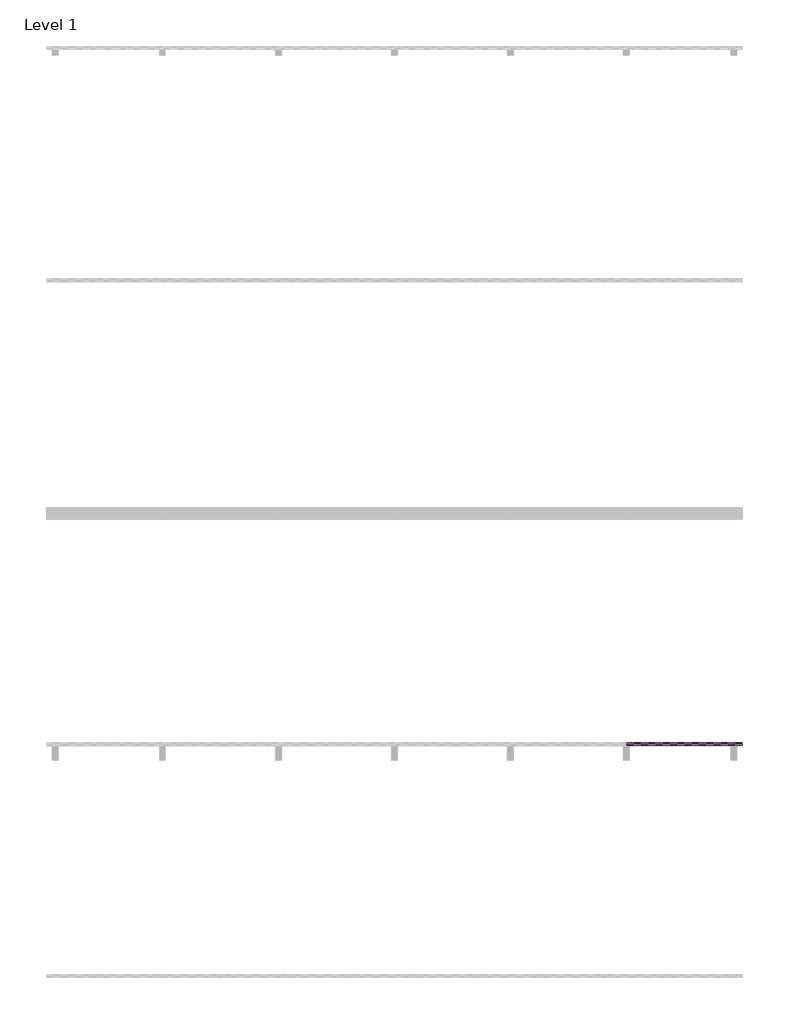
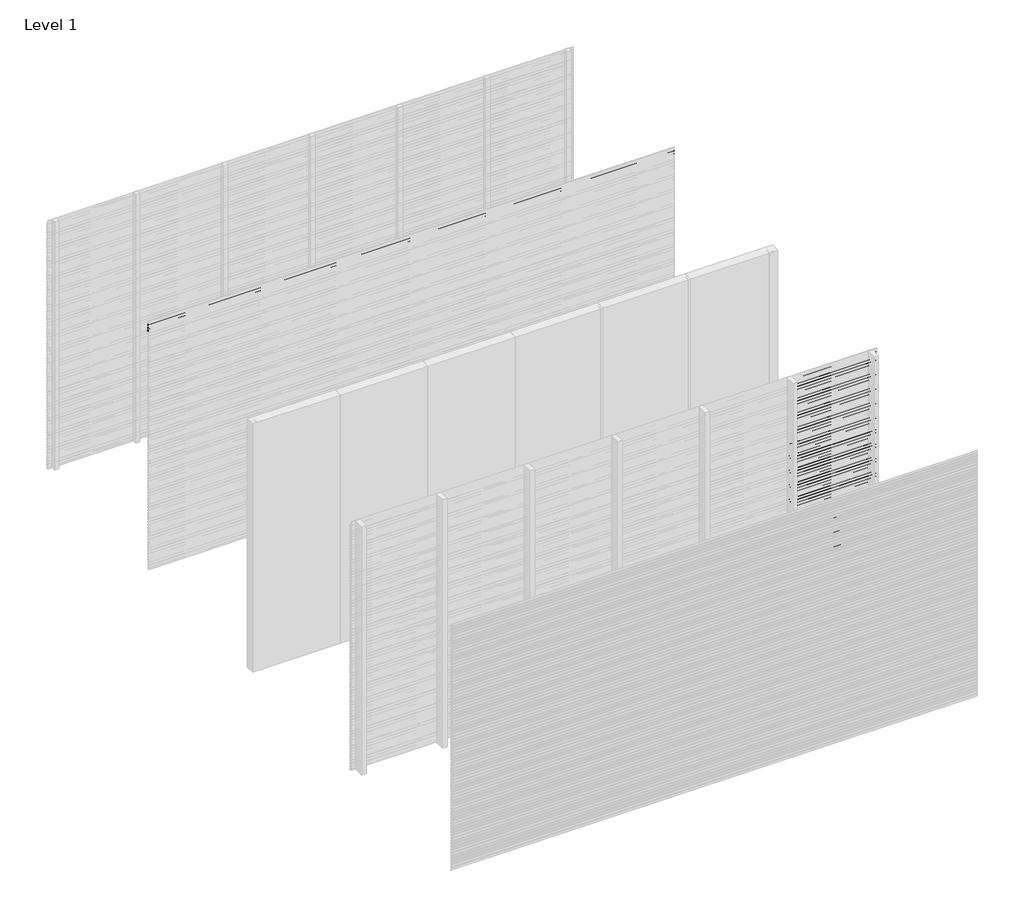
# One storey, part 7 of 25: 96 proxies.
"""IFC4 building model written with IfcOpenShell, lengths in millimetres."""

from ifc_helpers import new_model, si_unit, frame, origin, place, context, project, spatial, polyline, outline, extrude, element, save

model = new_model("IFC4")

# Units and contexts
model_context = context("Model", 3, world=origin())
ifc_project = project(units=[si_unit("LENGTHUNIT", "METRE", prefix="MILLI")], contexts=[model_context])

# Site, building, storey
site = spatial("IfcSite", under=ifc_project)
building = spatial("IfcBuilding", under=site)
storey = spatial("IfcBuildingStorey", under=building, Name="Level 1", Elevation=0.0)

# Proxies
placement = place(None, origin())
element("IfcBuildingElementProxy", 1, Name="Wall Sweeps", at=placement, inside=storey, context=model_context, shape_type="SweptSolid", body=[
    extrude(outline(polyline([(-13995.0, 2975.0), (-13995.0, 2963.942893), (-13976.0, 2948.0), (-13976.0, 2935.0), (-13997.0, 2952.6210923), (-13997.0, 2975.0), (-13995.0, 2975.0)])), frame((0.0, 0.0, 0.0), z_axis=(1.0, 0.0, 0.0), x_axis=(0.0, 1.0, 0.0)), (0.0, 0.0, 1.0), 6000.0),
])
element("IfcBuildingElementProxy", 2, Name="Wall Sweeps", at=placement, inside=storey, context=model_context, shape_type="SweptSolid", body=[
    extrude(outline(polyline([(-13995.0, 2940.0), (-13995.0, 2928.942893), (-13976.0, 2913.0), (-13976.0, 2900.0), (-13997.0, 2917.6210923), (-13997.0, 2940.0), (-13995.0, 2940.0)])), frame((0.0, 0.0, 0.0), z_axis=(1.0, 0.0, 0.0), x_axis=(0.0, 1.0, 0.0)), (0.0, 0.0, 1.0), 6000.0),
])
element("IfcBuildingElementProxy", 3, Name="Wall Sweeps", at=placement, inside=storey, context=model_context, shape_type="SweptSolid", body=[
    extrude(outline(polyline([(-13995.0, 2905.0), (-13995.0, 2893.942893), (-13976.0, 2878.0), (-13976.0, 2865.0), (-13997.0, 2882.6210923), (-13997.0, 2905.0), (-13995.0, 2905.0)])), frame((0.0, 0.0, 0.0), z_axis=(1.0, 0.0, 0.0), x_axis=(0.0, 1.0, 0.0)), (0.0, 0.0, 1.0), 6000.0),
])
element("IfcBuildingElementProxy", 4, Name="Wall Sweeps", at=placement, inside=storey, context=model_context, shape_type="SweptSolid", body=[
    extrude(outline(polyline([(-17995.0, 2975.0), (-17995.0, 2963.942893), (-17976.0, 2948.0), (-17976.0, 2935.0), (-17997.0, 2952.6210923), (-17997.0, 2975.0), (-17995.0, 2975.0)])), frame((4999.9999998, 0.0, 0.0), z_axis=(1.0, 0.0, 0.0), x_axis=(0.0, 1.0, 0.0)), (0.0, 0.0, 1.0), 1000.0000002),
])
element("IfcBuildingElementProxy", 5, Name="Wall Sweeps", at=placement, inside=storey, context=model_context, shape_type="SweptSolid", body=[
    extrude(outline(polyline([(-17995.0, 2940.0), (-17995.0, 2928.942893), (-17976.0, 2913.0), (-17976.0, 2900.0), (-17997.0, 2917.6210923), (-17997.0, 2940.0), (-17995.0, 2940.0)])), frame((4999.9999998, 0.0, 0.0), z_axis=(1.0, 0.0, 0.0), x_axis=(0.0, 1.0, 0.0)), (0.0, 0.0, 1.0), 1000.0000002),
])
element("IfcBuildingElementProxy", 6, Name="Wall Sweeps", at=placement, inside=storey, context=model_context, shape_type="SweptSolid", body=[
    extrude(outline(polyline([(-17995.0, 2905.0), (-17995.0, 2893.942893), (-17976.0, 2878.0), (-17976.0, 2865.0), (-17997.0, 2882.6210923), (-17997.0, 2905.0), (-17995.0, 2905.0)])), frame((4999.9999998, 0.0, 0.0), z_axis=(1.0, 0.0, 0.0), x_axis=(0.0, 1.0, 0.0)), (0.0, 0.0, 1.0), 1000.0000002),
])
element("IfcBuildingElementProxy", 7, Name="Wall Sweeps", at=placement, inside=storey, context=model_context, shape_type="SweptSolid", body=[
    extrude(outline(polyline([(-17995.0, 2870.0), (-17995.0, 2858.942893), (-17976.0, 2843.0), (-17976.0, 2830.0), (-17997.0, 2847.6210923), (-17997.0, 2870.0), (-17995.0, 2870.0)])), frame((4999.9999998, 0.0, 0.0), z_axis=(1.0, 0.0, 0.0), x_axis=(0.0, 1.0, 0.0)), (0.0, 0.0, 1.0), 1000.0000002),
])
element("IfcBuildingElementProxy", 8, Name="Wall Sweeps", at=placement, inside=storey, context=model_context, shape_type="SweptSolid", body=[
    extrude(outline(polyline([(-17995.0, 2835.0), (-17995.0, 2823.942893), (-17976.0, 2808.0), (-17976.0, 2795.0), (-17997.0, 2812.6210923), (-17997.0, 2835.0), (-17995.0, 2835.0)])), frame((4999.9999998, 0.0, 0.0), z_axis=(1.0, 0.0, 0.0), x_axis=(0.0, 1.0, 0.0)), (0.0, 0.0, 1.0), 1000.0000002),
])
element("IfcBuildingElementProxy", 9, Name="Wall Sweeps", at=placement, inside=storey, context=model_context, shape_type="SweptSolid", body=[
    extrude(outline(polyline([(-17995.0, 2800.0), (-17995.0, 2788.942893), (-17976.0, 2773.0), (-17976.0, 2760.0), (-17997.0, 2777.6210923), (-17997.0, 2800.0), (-17995.0, 2800.0)])), frame((4999.9999998, 0.0, 0.0), z_axis=(1.0, 0.0, 0.0), x_axis=(0.0, 1.0, 0.0)), (0.0, 0.0, 1.0), 1000.0000002),
])
element("IfcBuildingElementProxy", 10, Name="Wall Sweeps", at=placement, inside=storey, context=model_context, shape_type="SweptSolid", body=[
    extrude(outline(polyline([(-17995.0, 2765.0), (-17995.0, 2753.942893), (-17976.0, 2738.0), (-17976.0, 2725.0), (-17997.0, 2742.6210923), (-17997.0, 2765.0), (-17995.0, 2765.0)])), frame((4999.9999998, 0.0, 0.0), z_axis=(1.0, 0.0, 0.0), x_axis=(0.0, 1.0, 0.0)), (0.0, 0.0, 1.0), 1000.0000002),
])
element("IfcBuildingElementProxy", 11, Name="Wall Sweeps", at=placement, inside=storey, context=model_context, shape_type="SweptSolid", body=[
    extrude(outline(polyline([(-17995.0, 2730.0), (-17995.0, 2718.942893), (-17976.0, 2703.0), (-17976.0, 2690.0), (-17997.0, 2707.6210923), (-17997.0, 2730.0), (-17995.0, 2730.0)])), frame((4999.9999998, 0.0, 0.0), z_axis=(1.0, 0.0, 0.0), x_axis=(0.0, 1.0, 0.0)), (0.0, 0.0, 1.0), 1000.0000002),
])
element("IfcBuildingElementProxy", 12, Name="Wall Sweeps", at=placement, inside=storey, context=model_context, shape_type="SweptSolid", body=[
    extrude(outline(polyline([(-17995.0, 2695.0), (-17995.0, 2683.942893), (-17976.0, 2668.0), (-17976.0, 2655.0), (-17997.0, 2672.6210923), (-17997.0, 2695.0), (-17995.0, 2695.0)])), frame((4999.9999998, 0.0, 0.0), z_axis=(1.0, 0.0, 0.0), x_axis=(0.0, 1.0, 0.0)), (0.0, 0.0, 1.0), 1000.0000002),
])
element("IfcBuildingElementProxy", 13, Name="Wall Sweeps", at=placement, inside=storey, context=model_context, shape_type="SweptSolid", body=[
    extrude(outline(polyline([(-17995.0, 2660.0), (-17995.0, 2648.942893), (-17976.0, 2633.0), (-17976.0, 2620.0), (-17997.0, 2637.6210923), (-17997.0, 2660.0), (-17995.0, 2660.0)])), frame((4999.9999998, 0.0, 0.0), z_axis=(1.0, 0.0, 0.0), x_axis=(0.0, 1.0, 0.0)), (0.0, 0.0, 1.0), 1000.0000002),
])
element("IfcBuildingElementProxy", 14, Name="Wall Sweeps", at=placement, inside=storey, context=model_context, shape_type="SweptSolid", body=[
    extrude(outline(polyline([(-17995.0, 2625.0), (-17995.0, 2613.942893), (-17976.0, 2598.0), (-17976.0, 2585.0), (-17997.0, 2602.6210923), (-17997.0, 2625.0), (-17995.0, 2625.0)])), frame((4999.9999998, 0.0, 0.0), z_axis=(1.0, 0.0, 0.0), x_axis=(0.0, 1.0, 0.0)), (0.0, 0.0, 1.0), 1000.0000002),
])
element("IfcBuildingElementProxy", 15, Name="Wall Sweeps", at=placement, inside=storey, context=model_context, shape_type="SweptSolid", body=[
    extrude(outline(polyline([(-17995.0, 2590.0), (-17995.0, 2578.942893), (-17976.0, 2563.0), (-17976.0, 2550.0), (-17997.0, 2567.6210923), (-17997.0, 2590.0), (-17995.0, 2590.0)])), frame((4999.9999998, 0.0, 0.0), z_axis=(1.0, 0.0, 0.0), x_axis=(0.0, 1.0, 0.0)), (0.0, 0.0, 1.0), 1000.0000002),
])
element("IfcBuildingElementProxy", 16, Name="Wall Sweeps", at=placement, inside=storey, context=model_context, shape_type="SweptSolid", body=[
    extrude(outline(polyline([(-17995.0, 2555.0), (-17995.0, 2543.942893), (-17976.0, 2528.0), (-17976.0, 2515.0), (-17997.0, 2532.6210923), (-17997.0, 2555.0), (-17995.0, 2555.0)])), frame((4999.9999998, 0.0, 0.0), z_axis=(1.0, 0.0, 0.0), x_axis=(0.0, 1.0, 0.0)), (0.0, 0.0, 1.0), 1000.0000002),
])
element("IfcBuildingElementProxy", 17, Name="Wall Sweeps", at=placement, inside=storey, context=model_context, shape_type="SweptSolid", body=[
    extrude(outline(polyline([(-17995.0, 2520.0), (-17995.0, 2508.942893), (-17976.0, 2493.0), (-17976.0, 2480.0), (-17997.0, 2497.6210923), (-17997.0, 2520.0), (-17995.0, 2520.0)])), frame((4999.9999998, 0.0, 0.0), z_axis=(1.0, 0.0, 0.0), x_axis=(0.0, 1.0, 0.0)), (0.0, 0.0, 1.0), 1000.0000002),
])
element("IfcBuildingElementProxy", 18, Name="Wall Sweeps", at=placement, inside=storey, context=model_context, shape_type="SweptSolid", body=[
    extrude(outline(polyline([(-17995.0, 2485.0), (-17995.0, 2473.942893), (-17976.0, 2458.0), (-17976.0, 2445.0), (-17997.0, 2462.6210923), (-17997.0, 2485.0), (-17995.0, 2485.0)])), frame((4999.9999998, 0.0, 0.0), z_axis=(1.0, 0.0, 0.0), x_axis=(0.0, 1.0, 0.0)), (0.0, 0.0, 1.0), 1000.0000002),
])
element("IfcBuildingElementProxy", 19, Name="Wall Sweeps", at=placement, inside=storey, context=model_context, shape_type="SweptSolid", body=[
    extrude(outline(polyline([(-17995.0, 2450.0), (-17995.0, 2438.942893), (-17976.0, 2423.0), (-17976.0, 2410.0), (-17997.0, 2427.6210923), (-17997.0, 2450.0), (-17995.0, 2450.0)])), frame((4999.9999998, 0.0, 0.0), z_axis=(1.0, 0.0, 0.0), x_axis=(0.0, 1.0, 0.0)), (0.0, 0.0, 1.0), 1000.0000002),
])
element("IfcBuildingElementProxy", 20, Name="Wall Sweeps", at=placement, inside=storey, context=model_context, shape_type="SweptSolid", body=[
    extrude(outline(polyline([(-17995.0, 2415.0), (-17995.0, 2403.942893), (-17976.0, 2388.0), (-17976.0, 2375.0), (-17997.0, 2392.6210923), (-17997.0, 2415.0), (-17995.0, 2415.0)])), frame((4999.9999998, 0.0, 0.0), z_axis=(1.0, 0.0, 0.0), x_axis=(0.0, 1.0, 0.0)), (0.0, 0.0, 1.0), 1000.0000002),
])
element("IfcBuildingElementProxy", 21, Name="Wall Sweeps", at=placement, inside=storey, context=model_context, shape_type="SweptSolid", body=[
    extrude(outline(polyline([(-17995.0, 2380.0), (-17995.0, 2368.942893), (-17976.0, 2353.0), (-17976.0, 2340.0), (-17997.0, 2357.6210923), (-17997.0, 2380.0), (-17995.0, 2380.0)])), frame((4999.9999998, 0.0, 0.0), z_axis=(1.0, 0.0, 0.0), x_axis=(0.0, 1.0, 0.0)), (0.0, 0.0, 1.0), 1000.0000002),
])
element("IfcBuildingElementProxy", 22, Name="Wall Sweeps", at=placement, inside=storey, context=model_context, shape_type="SweptSolid", body=[
    extrude(outline(polyline([(-17995.0, 2345.0), (-17995.0, 2333.942893), (-17976.0, 2318.0), (-17976.0, 2305.0), (-17997.0, 2322.6210923), (-17997.0, 2345.0), (-17995.0, 2345.0)])), frame((4999.9999998, 0.0, 0.0), z_axis=(1.0, 0.0, 0.0), x_axis=(0.0, 1.0, 0.0)), (0.0, 0.0, 1.0), 1000.0000002),
])
element("IfcBuildingElementProxy", 23, Name="Wall Sweeps", at=placement, inside=storey, context=model_context, shape_type="SweptSolid", body=[
    extrude(outline(polyline([(-17995.0, 2310.0), (-17995.0, 2298.942893), (-17976.0, 2283.0), (-17976.0, 2270.0), (-17997.0, 2287.6210923), (-17997.0, 2310.0), (-17995.0, 2310.0)])), frame((4999.9999998, 0.0, 0.0), z_axis=(1.0, 0.0, 0.0), x_axis=(0.0, 1.0, 0.0)), (0.0, 0.0, 1.0), 1000.0000002),
])
element("IfcBuildingElementProxy", 24, Name="Wall Sweeps", at=placement, inside=storey, context=model_context, shape_type="SweptSolid", body=[
    extrude(outline(polyline([(-17995.0, 2275.0), (-17995.0, 2263.942893), (-17976.0, 2248.0), (-17976.0, 2235.0), (-17997.0, 2252.6210923), (-17997.0, 2275.0), (-17995.0, 2275.0)])), frame((4999.9999998, 0.0, 0.0), z_axis=(1.0, 0.0, 0.0), x_axis=(0.0, 1.0, 0.0)), (0.0, 0.0, 1.0), 1000.0000002),
])
element("IfcBuildingElementProxy", 25, Name="Wall Sweeps", at=placement, inside=storey, context=model_context, shape_type="SweptSolid", body=[
    extrude(outline(polyline([(-17995.0, 2240.0), (-17995.0, 2228.942893), (-17976.0, 2213.0), (-17976.0, 2200.0), (-17997.0, 2217.6210923), (-17997.0, 2240.0), (-17995.0, 2240.0)])), frame((4999.9999998, 0.0, 0.0), z_axis=(1.0, 0.0, 0.0), x_axis=(0.0, 1.0, 0.0)), (0.0, 0.0, 1.0), 1000.0000002),
])
element("IfcBuildingElementProxy", 26, Name="Wall Sweeps", at=placement, inside=storey, context=model_context, shape_type="SweptSolid", body=[
    extrude(outline(polyline([(-17995.0, 2205.0), (-17995.0, 2193.942893), (-17976.0, 2178.0), (-17976.0, 2165.0), (-17997.0, 2182.6210923), (-17997.0, 2205.0), (-17995.0, 2205.0)])), frame((4999.9999998, 0.0, 0.0), z_axis=(1.0, 0.0, 0.0), x_axis=(0.0, 1.0, 0.0)), (0.0, 0.0, 1.0), 1000.0000002),
])
element("IfcBuildingElementProxy", 27, Name="Wall Sweeps", at=placement, inside=storey, context=model_context, shape_type="SweptSolid", body=[
    extrude(outline(polyline([(-17995.0, 2170.0), (-17995.0, 2158.942893), (-17976.0, 2143.0), (-17976.0, 2130.0), (-17997.0, 2147.6210923), (-17997.0, 2170.0), (-17995.0, 2170.0)])), frame((4999.9999998, 0.0, 0.0), z_axis=(1.0, 0.0, 0.0), x_axis=(0.0, 1.0, 0.0)), (0.0, 0.0, 1.0), 1000.0000002),
])
element("IfcBuildingElementProxy", 28, Name="Wall Sweeps", at=placement, inside=storey, context=model_context, shape_type="SweptSolid", body=[
    extrude(outline(polyline([(-17995.0, 2135.0), (-17995.0, 2123.942893), (-17976.0, 2108.0), (-17976.0, 2095.0), (-17997.0, 2112.6210923), (-17997.0, 2135.0), (-17995.0, 2135.0)])), frame((4999.9999998, 0.0, 0.0), z_axis=(1.0, 0.0, 0.0), x_axis=(0.0, 1.0, 0.0)), (0.0, 0.0, 1.0), 1000.0000002),
])
element("IfcBuildingElementProxy", 29, Name="Wall Sweeps", at=placement, inside=storey, context=model_context, shape_type="SweptSolid", body=[
    extrude(outline(polyline([(-17995.0, 2100.0), (-17995.0, 2088.942893), (-17976.0, 2073.0), (-17976.0, 2060.0), (-17997.0, 2077.6210923), (-17997.0, 2100.0), (-17995.0, 2100.0)])), frame((4999.9999998, 0.0, 0.0), z_axis=(1.0, 0.0, 0.0), x_axis=(0.0, 1.0, 0.0)), (0.0, 0.0, 1.0), 1000.0000002),
])
element("IfcBuildingElementProxy", 30, Name="Wall Sweeps", at=placement, inside=storey, context=model_context, shape_type="SweptSolid", body=[
    extrude(outline(polyline([(-17995.0, 2065.0), (-17995.0, 2053.942893), (-17976.0, 2038.0), (-17976.0, 2025.0), (-17997.0, 2042.6210923), (-17997.0, 2065.0), (-17995.0, 2065.0)])), frame((4999.9999998, 0.0, 0.0), z_axis=(1.0, 0.0, 0.0), x_axis=(0.0, 1.0, 0.0)), (0.0, 0.0, 1.0), 1000.0000002),
])
element("IfcBuildingElementProxy", 31, Name="Wall Sweeps", at=placement, inside=storey, context=model_context, shape_type="SweptSolid", body=[
    extrude(outline(polyline([(-17995.0, 2030.0), (-17995.0, 2018.942893), (-17976.0, 2003.0), (-17976.0, 1990.0), (-17997.0, 2007.6210923), (-17997.0, 2030.0), (-17995.0, 2030.0)])), frame((4999.9999998, 0.0, 0.0), z_axis=(1.0, 0.0, 0.0), x_axis=(0.0, 1.0, 0.0)), (0.0, 0.0, 1.0), 1000.0000002),
])
element("IfcBuildingElementProxy", 32, Name="Wall Sweeps", at=placement, inside=storey, context=model_context, shape_type="SweptSolid", body=[
    extrude(outline(polyline([(-17995.0, 1995.0), (-17995.0, 1983.942893), (-17976.0, 1968.0), (-17976.0, 1955.0), (-17997.0, 1972.6210923), (-17997.0, 1995.0), (-17995.0, 1995.0)])), frame((4999.9999998, 0.0, 0.0), z_axis=(1.0, 0.0, 0.0), x_axis=(0.0, 1.0, 0.0)), (0.0, 0.0, 1.0), 1000.0000002),
])
element("IfcBuildingElementProxy", 33, Name="Wall Sweeps", at=placement, inside=storey, context=model_context, shape_type="SweptSolid", body=[
    extrude(outline(polyline([(-17995.0, 1960.0), (-17995.0, 1948.942893), (-17976.0, 1933.0), (-17976.0, 1920.0), (-17997.0, 1937.6210923), (-17997.0, 1960.0), (-17995.0, 1960.0)])), frame((4999.9999998, 0.0, 0.0), z_axis=(1.0, 0.0, 0.0), x_axis=(0.0, 1.0, 0.0)), (0.0, 0.0, 1.0), 1000.0000002),
])
element("IfcBuildingElementProxy", 34, Name="Wall Sweeps", at=placement, inside=storey, context=model_context, shape_type="SweptSolid", body=[
    extrude(outline(polyline([(-17995.0, 1925.0), (-17995.0, 1913.942893), (-17976.0, 1898.0), (-17976.0, 1885.0), (-17997.0, 1902.6210923), (-17997.0, 1925.0), (-17995.0, 1925.0)])), frame((4999.9999998, 0.0, 0.0), z_axis=(1.0, 0.0, 0.0), x_axis=(0.0, 1.0, 0.0)), (0.0, 0.0, 1.0), 1000.0000002),
])
element("IfcBuildingElementProxy", 35, Name="Wall Sweeps", at=placement, inside=storey, context=model_context, shape_type="SweptSolid", body=[
    extrude(outline(polyline([(-17995.0, 1890.0), (-17995.0, 1878.942893), (-17976.0, 1863.0), (-17976.0, 1850.0), (-17997.0, 1867.6210923), (-17997.0, 1890.0), (-17995.0, 1890.0)])), frame((4999.9999998, 0.0, 0.0), z_axis=(1.0, 0.0, 0.0), x_axis=(0.0, 1.0, 0.0)), (0.0, 0.0, 1.0), 1000.0000002),
])
element("IfcBuildingElementProxy", 36, Name="Wall Sweeps", at=placement, inside=storey, context=model_context, shape_type="SweptSolid", body=[
    extrude(outline(polyline([(-17995.0, 1855.0), (-17995.0, 1843.942893), (-17976.0, 1828.0), (-17976.0, 1815.0), (-17997.0, 1832.6210923), (-17997.0, 1855.0), (-17995.0, 1855.0)])), frame((4999.9999998, 0.0, 0.0), z_axis=(1.0, 0.0, 0.0), x_axis=(0.0, 1.0, 0.0)), (0.0, 0.0, 1.0), 1000.0000002),
])
element("IfcBuildingElementProxy", 37, Name="Wall Sweeps", at=placement, inside=storey, context=model_context, shape_type="SweptSolid", body=[
    extrude(outline(polyline([(-17995.0, 1820.0), (-17995.0, 1808.942893), (-17976.0, 1793.0), (-17976.0, 1780.0), (-17997.0, 1797.6210923), (-17997.0, 1820.0), (-17995.0, 1820.0)])), frame((4999.9999998, 0.0, 0.0), z_axis=(1.0, 0.0, 0.0), x_axis=(0.0, 1.0, 0.0)), (0.0, 0.0, 1.0), 1000.0000002),
])
element("IfcBuildingElementProxy", 38, Name="Wall Sweeps", at=placement, inside=storey, context=model_context, shape_type="SweptSolid", body=[
    extrude(outline(polyline([(-17995.0, 1785.0), (-17995.0, 1773.942893), (-17976.0, 1758.0), (-17976.0, 1745.0), (-17997.0, 1762.6210923), (-17997.0, 1785.0), (-17995.0, 1785.0)])), frame((4999.9999998, 0.0, 0.0), z_axis=(1.0, 0.0, 0.0), x_axis=(0.0, 1.0, 0.0)), (0.0, 0.0, 1.0), 1000.0000002),
])
element("IfcBuildingElementProxy", 39, Name="Wall Sweeps", at=placement, inside=storey, context=model_context, shape_type="SweptSolid", body=[
    extrude(outline(polyline([(-17995.0, 1750.0), (-17995.0, 1738.942893), (-17976.0, 1723.0), (-17976.0, 1710.0), (-17997.0, 1727.6210923), (-17997.0, 1750.0), (-17995.0, 1750.0)])), frame((4999.9999998, 0.0, 0.0), z_axis=(1.0, 0.0, 0.0), x_axis=(0.0, 1.0, 0.0)), (0.0, 0.0, 1.0), 1000.0000002),
])
element("IfcBuildingElementProxy", 40, Name="Wall Sweeps", at=placement, inside=storey, context=model_context, shape_type="SweptSolid", body=[
    extrude(outline(polyline([(-17995.0, 1715.0), (-17995.0, 1703.942893), (-17976.0, 1688.0), (-17976.0, 1675.0), (-17997.0, 1692.6210923), (-17997.0, 1715.0), (-17995.0, 1715.0)])), frame((4999.9999998, 0.0, 0.0), z_axis=(1.0, 0.0, 0.0), x_axis=(0.0, 1.0, 0.0)), (0.0, 0.0, 1.0), 1000.0000002),
])
element("IfcBuildingElementProxy", 41, Name="Wall Sweeps", at=placement, inside=storey, context=model_context, shape_type="SweptSolid", body=[
    extrude(outline(polyline([(-17995.0, 1680.0), (-17995.0, 1668.942893), (-17976.0, 1653.0), (-17976.0, 1640.0), (-17997.0, 1657.6210923), (-17997.0, 1680.0), (-17995.0, 1680.0)])), frame((4999.9999998, 0.0, 0.0), z_axis=(1.0, 0.0, 0.0), x_axis=(0.0, 1.0, 0.0)), (0.0, 0.0, 1.0), 1000.0000002),
])
element("IfcBuildingElementProxy", 42, Name="Wall Sweeps", at=placement, inside=storey, context=model_context, shape_type="SweptSolid", body=[
    extrude(outline(polyline([(-17995.0, 1645.0), (-17995.0, 1633.942893), (-17976.0, 1618.0), (-17976.0, 1605.0), (-17997.0, 1622.6210923), (-17997.0, 1645.0), (-17995.0, 1645.0)])), frame((4999.9999998, 0.0, 0.0), z_axis=(1.0, 0.0, 0.0), x_axis=(0.0, 1.0, 0.0)), (0.0, 0.0, 1.0), 1000.0000002),
])
element("IfcBuildingElementProxy", 43, Name="Wall Sweeps", at=placement, inside=storey, context=model_context, shape_type="SweptSolid", body=[
    extrude(outline(polyline([(-17995.0, 1610.0), (-17995.0, 1598.942893), (-17976.0, 1583.0), (-17976.0, 1570.0), (-17997.0, 1587.6210923), (-17997.0, 1610.0), (-17995.0, 1610.0)])), frame((4999.9999998, 0.0, 0.0), z_axis=(1.0, 0.0, 0.0), x_axis=(0.0, 1.0, 0.0)), (0.0, 0.0, 1.0), 1000.0000002),
])
element("IfcBuildingElementProxy", 44, Name="Wall Sweeps", at=placement, inside=storey, context=model_context, shape_type="SweptSolid", body=[
    extrude(outline(polyline([(-17995.0, 1575.0), (-17995.0, 1563.942893), (-17976.0, 1548.0), (-17976.0, 1535.0), (-17997.0, 1552.6210923), (-17997.0, 1575.0), (-17995.0, 1575.0)])), frame((4999.9999998, 0.0, 0.0), z_axis=(1.0, 0.0, 0.0), x_axis=(0.0, 1.0, 0.0)), (0.0, 0.0, 1.0), 1000.0000002),
])
element("IfcBuildingElementProxy", 45, Name="Wall Sweeps", at=placement, inside=storey, context=model_context, shape_type="SweptSolid", body=[
    extrude(outline(polyline([(-17995.0, 1540.0), (-17995.0, 1528.942893), (-17976.0, 1513.0), (-17976.0, 1500.0), (-17997.0, 1517.6210923), (-17997.0, 1540.0), (-17995.0, 1540.0)])), frame((4999.9999998, 0.0, 0.0), z_axis=(1.0, 0.0, 0.0), x_axis=(0.0, 1.0, 0.0)), (0.0, 0.0, 1.0), 1000.0000002),
])
element("IfcBuildingElementProxy", 46, Name="Wall Sweeps", at=placement, inside=storey, context=model_context, shape_type="SweptSolid", body=[
    extrude(outline(polyline([(-17995.0, 1505.0), (-17995.0, 1493.942893), (-17976.0, 1478.0), (-17976.0, 1465.0), (-17997.0, 1482.6210923), (-17997.0, 1505.0), (-17995.0, 1505.0)])), frame((4999.9999998, 0.0, 0.0), z_axis=(1.0, 0.0, 0.0), x_axis=(0.0, 1.0, 0.0)), (0.0, 0.0, 1.0), 1000.0000002),
])
element("IfcBuildingElementProxy", 47, Name="Wall Sweeps", at=placement, inside=storey, context=model_context, shape_type="SweptSolid", body=[
    extrude(outline(polyline([(-17995.0, 1470.0), (-17995.0, 1458.942893), (-17976.0, 1443.0), (-17976.0, 1430.0), (-17997.0, 1447.6210923), (-17997.0, 1470.0), (-17995.0, 1470.0)])), frame((4999.9999998, 0.0, 0.0), z_axis=(1.0, 0.0, 0.0), x_axis=(0.0, 1.0, 0.0)), (0.0, 0.0, 1.0), 1000.0000002),
])
element("IfcBuildingElementProxy", 48, Name="Wall Sweeps", at=placement, inside=storey, context=model_context, shape_type="SweptSolid", body=[
    extrude(outline(polyline([(-17995.0, 1435.0), (-17995.0, 1423.942893), (-17976.0, 1408.0), (-17976.0, 1395.0), (-17997.0, 1412.6210923), (-17997.0, 1435.0), (-17995.0, 1435.0)])), frame((4999.9999998, 0.0, 0.0), z_axis=(1.0, 0.0, 0.0), x_axis=(0.0, 1.0, 0.0)), (0.0, 0.0, 1.0), 1000.0000002),
])
element("IfcBuildingElementProxy", 49, Name="Wall Sweeps", at=placement, inside=storey, context=model_context, shape_type="SweptSolid", body=[
    extrude(outline(polyline([(-17995.0, 1400.0), (-17995.0, 1388.942893), (-17976.0, 1373.0), (-17976.0, 1360.0), (-17997.0, 1377.6210923), (-17997.0, 1400.0), (-17995.0, 1400.0)])), frame((4999.9999998, 0.0, 0.0), z_axis=(1.0, 0.0, 0.0), x_axis=(0.0, 1.0, 0.0)), (0.0, 0.0, 1.0), 1000.0000002),
])
element("IfcBuildingElementProxy", 50, Name="Wall Sweeps", at=placement, inside=storey, context=model_context, shape_type="SweptSolid", body=[
    extrude(outline(polyline([(-17995.0, 1365.0), (-17995.0, 1353.942893), (-17976.0, 1338.0), (-17976.0, 1325.0), (-17997.0, 1342.6210923), (-17997.0, 1365.0), (-17995.0, 1365.0)])), frame((4999.9999998, 0.0, 0.0), z_axis=(1.0, 0.0, 0.0), x_axis=(0.0, 1.0, 0.0)), (0.0, 0.0, 1.0), 1000.0000002),
])
element("IfcBuildingElementProxy", 51, Name="Wall Sweeps", at=placement, inside=storey, context=model_context, shape_type="SweptSolid", body=[
    extrude(outline(polyline([(-17995.0, 1330.0), (-17995.0, 1318.942893), (-17976.0, 1303.0), (-17976.0, 1290.0), (-17997.0, 1307.6210923), (-17997.0, 1330.0), (-17995.0, 1330.0)])), frame((4999.9999998, 0.0, 0.0), z_axis=(1.0, 0.0, 0.0), x_axis=(0.0, 1.0, 0.0)), (0.0, 0.0, 1.0), 1000.0000002),
])
element("IfcBuildingElementProxy", 52, Name="Wall Sweeps", at=placement, inside=storey, context=model_context, shape_type="SweptSolid", body=[
    extrude(outline(polyline([(-17995.0, 1295.0), (-17995.0, 1283.942893), (-17976.0, 1268.0), (-17976.0, 1255.0), (-17997.0, 1272.6210923), (-17997.0, 1295.0), (-17995.0, 1295.0)])), frame((4999.9999998, 0.0, 0.0), z_axis=(1.0, 0.0, 0.0), x_axis=(0.0, 1.0, 0.0)), (0.0, 0.0, 1.0), 1000.0000002),
])
element("IfcBuildingElementProxy", 53, Name="Wall Sweeps", at=placement, inside=storey, context=model_context, shape_type="SweptSolid", body=[
    extrude(outline(polyline([(-17995.0, 1260.0), (-17995.0, 1248.942893), (-17976.0, 1233.0), (-17976.0, 1220.0), (-17997.0, 1237.6210923), (-17997.0, 1260.0), (-17995.0, 1260.0)])), frame((4999.9999998, 0.0, 0.0), z_axis=(1.0, 0.0, 0.0), x_axis=(0.0, 1.0, 0.0)), (0.0, 0.0, 1.0), 1000.0000002),
])
element("IfcBuildingElementProxy", 54, Name="Wall Sweeps", at=placement, inside=storey, context=model_context, shape_type="SweptSolid", body=[
    extrude(outline(polyline([(-17995.0, 1225.0), (-17995.0, 1213.942893), (-17976.0, 1198.0), (-17976.0, 1185.0), (-17997.0, 1202.6210923), (-17997.0, 1225.0), (-17995.0, 1225.0)])), frame((4999.9999998, 0.0, 0.0), z_axis=(1.0, 0.0, 0.0), x_axis=(0.0, 1.0, 0.0)), (0.0, 0.0, 1.0), 1000.0000002),
])
element("IfcBuildingElementProxy", 55, Name="Wall Sweeps", at=placement, inside=storey, context=model_context, shape_type="SweptSolid", body=[
    extrude(outline(polyline([(-17995.0, 1190.0), (-17995.0, 1178.942893), (-17976.0, 1163.0), (-17976.0, 1150.0), (-17997.0, 1167.6210923), (-17997.0, 1190.0), (-17995.0, 1190.0)])), frame((4999.9999998, 0.0, 0.0), z_axis=(1.0, 0.0, 0.0), x_axis=(0.0, 1.0, 0.0)), (0.0, 0.0, 1.0), 1000.0000002),
])
element("IfcBuildingElementProxy", 56, Name="Wall Sweeps", at=placement, inside=storey, context=model_context, shape_type="SweptSolid", body=[
    extrude(outline(polyline([(-17995.0, 1155.0), (-17995.0, 1143.942893), (-17976.0, 1128.0), (-17976.0, 1115.0), (-17997.0, 1132.6210923), (-17997.0, 1155.0), (-17995.0, 1155.0)])), frame((4999.9999998, 0.0, 0.0), z_axis=(1.0, 0.0, 0.0), x_axis=(0.0, 1.0, 0.0)), (0.0, 0.0, 1.0), 1000.0000002),
])
element("IfcBuildingElementProxy", 57, Name="Wall Sweeps", at=placement, inside=storey, context=model_context, shape_type="SweptSolid", body=[
    extrude(outline(polyline([(-17995.0, 1120.0), (-17995.0, 1108.942893), (-17976.0, 1093.0), (-17976.0, 1080.0), (-17997.0, 1097.6210923), (-17997.0, 1120.0), (-17995.0, 1120.0)])), frame((4999.9999998, 0.0, 0.0), z_axis=(1.0, 0.0, 0.0), x_axis=(0.0, 1.0, 0.0)), (0.0, 0.0, 1.0), 1000.0000002),
])
element("IfcBuildingElementProxy", 58, Name="Wall Sweeps", at=placement, inside=storey, context=model_context, shape_type="SweptSolid", body=[
    extrude(outline(polyline([(-17995.0, 1085.0), (-17995.0, 1073.942893), (-17976.0, 1058.0), (-17976.0, 1045.0), (-17997.0, 1062.6210923), (-17997.0, 1085.0), (-17995.0, 1085.0)])), frame((4999.9999998, 0.0, 0.0), z_axis=(1.0, 0.0, 0.0), x_axis=(0.0, 1.0, 0.0)), (0.0, 0.0, 1.0), 1000.0000002),
])
element("IfcBuildingElementProxy", 59, Name="Wall Sweeps", at=placement, inside=storey, context=model_context, shape_type="SweptSolid", body=[
    extrude(outline(polyline([(-17995.0, 1050.0), (-17995.0, 1038.942893), (-17976.0, 1023.0), (-17976.0, 1010.0), (-17997.0, 1027.6210923), (-17997.0, 1050.0), (-17995.0, 1050.0)])), frame((4999.9999998, 0.0, 0.0), z_axis=(1.0, 0.0, 0.0), x_axis=(0.0, 1.0, 0.0)), (0.0, 0.0, 1.0), 1000.0000002),
])
element("IfcBuildingElementProxy", 60, Name="Wall Sweeps", at=placement, inside=storey, context=model_context, shape_type="SweptSolid", body=[
    extrude(outline(polyline([(-17995.0, 1015.0), (-17995.0, 1003.942893), (-17976.0, 988.0), (-17976.0, 975.0), (-17997.0, 992.6210923), (-17997.0, 1015.0), (-17995.0, 1015.0)])), frame((4999.9999998, 0.0, 0.0), z_axis=(1.0, 0.0, 0.0), x_axis=(0.0, 1.0, 0.0)), (0.0, 0.0, 1.0), 1000.0000002),
])
element("IfcBuildingElementProxy", 61, Name="Wall Sweeps", at=placement, inside=storey, context=model_context, shape_type="SweptSolid", body=[
    extrude(outline(polyline([(-17995.0, 980.0), (-17995.0, 968.942893), (-17976.0, 953.0), (-17976.0, 940.0), (-17997.0, 957.6210923), (-17997.0, 980.0), (-17995.0, 980.0)])), frame((4999.9999998, 0.0, 0.0), z_axis=(1.0, 0.0, 0.0), x_axis=(0.0, 1.0, 0.0)), (0.0, 0.0, 1.0), 1000.0000002),
])
element("IfcBuildingElementProxy", 62, Name="Wall Sweeps", at=placement, inside=storey, context=model_context, shape_type="SweptSolid", body=[
    extrude(outline(polyline([(-17995.0, 945.0), (-17995.0, 933.942893), (-17976.0, 918.0), (-17976.0, 905.0), (-17997.0, 922.6210923), (-17997.0, 945.0), (-17995.0, 945.0)])), frame((4999.9999998, 0.0, 0.0), z_axis=(1.0, 0.0, 0.0), x_axis=(0.0, 1.0, 0.0)), (0.0, 0.0, 1.0), 1000.0000002),
])
element("IfcBuildingElementProxy", 63, Name="Wall Sweeps", at=placement, inside=storey, context=model_context, shape_type="SweptSolid", body=[
    extrude(outline(polyline([(-17995.0, 910.0), (-17995.0, 898.942893), (-17976.0, 883.0), (-17976.0, 870.0), (-17997.0, 887.6210923), (-17997.0, 910.0), (-17995.0, 910.0)])), frame((4999.9999998, 0.0, 0.0), z_axis=(1.0, 0.0, 0.0), x_axis=(0.0, 1.0, 0.0)), (0.0, 0.0, 1.0), 1000.0000002),
])
element("IfcBuildingElementProxy", 64, Name="Wall Sweeps", at=placement, inside=storey, context=model_context, shape_type="SweptSolid", body=[
    extrude(outline(polyline([(-17995.0, 875.0), (-17995.0, 863.942893), (-17976.0, 848.0), (-17976.0, 835.0), (-17997.0, 852.6210923), (-17997.0, 875.0), (-17995.0, 875.0)])), frame((4999.9999998, 0.0, 0.0), z_axis=(1.0, 0.0, 0.0), x_axis=(0.0, 1.0, 0.0)), (0.0, 0.0, 1.0), 1000.0000002),
])
element("IfcBuildingElementProxy", 65, Name="Wall Sweeps", at=placement, inside=storey, context=model_context, shape_type="SweptSolid", body=[
    extrude(outline(polyline([(-17995.0, 840.0), (-17995.0, 828.942893), (-17976.0, 813.0), (-17976.0, 800.0), (-17997.0, 817.6210923), (-17997.0, 840.0), (-17995.0, 840.0)])), frame((4999.9999998, 0.0, 0.0), z_axis=(1.0, 0.0, 0.0), x_axis=(0.0, 1.0, 0.0)), (0.0, 0.0, 1.0), 1000.0000002),
])
element("IfcBuildingElementProxy", 66, Name="Wall Sweeps", at=placement, inside=storey, context=model_context, shape_type="SweptSolid", body=[
    extrude(outline(polyline([(-17995.0, 805.0), (-17995.0, 793.942893), (-17976.0, 778.0), (-17976.0, 765.0), (-17997.0, 782.6210923), (-17997.0, 805.0), (-17995.0, 805.0)])), frame((4999.9999998, 0.0, 0.0), z_axis=(1.0, 0.0, 0.0), x_axis=(0.0, 1.0, 0.0)), (0.0, 0.0, 1.0), 1000.0000002),
])
element("IfcBuildingElementProxy", 67, Name="Wall Sweeps", at=placement, inside=storey, context=model_context, shape_type="SweptSolid", body=[
    extrude(outline(polyline([(-17995.0, 770.0), (-17995.0, 758.942893), (-17976.0, 743.0), (-17976.0, 730.0), (-17997.0, 747.6210923), (-17997.0, 770.0), (-17995.0, 770.0)])), frame((4999.9999998, 0.0, 0.0), z_axis=(1.0, 0.0, 0.0), x_axis=(0.0, 1.0, 0.0)), (0.0, 0.0, 1.0), 1000.0000002),
])
element("IfcBuildingElementProxy", 68, Name="Wall Sweeps", at=placement, inside=storey, context=model_context, shape_type="SweptSolid", body=[
    extrude(outline(polyline([(-17995.0, 735.0), (-17995.0, 723.942893), (-17976.0, 708.0), (-17976.0, 695.0), (-17997.0, 712.6210923), (-17997.0, 735.0), (-17995.0, 735.0)])), frame((4999.9999998, 0.0, 0.0), z_axis=(1.0, 0.0, 0.0), x_axis=(0.0, 1.0, 0.0)), (0.0, 0.0, 1.0), 1000.0000002),
])
element("IfcBuildingElementProxy", 69, Name="Wall Sweeps", at=placement, inside=storey, context=model_context, shape_type="SweptSolid", body=[
    extrude(outline(polyline([(-17995.0, 700.0), (-17995.0, 688.942893), (-17976.0, 673.0), (-17976.0, 660.0), (-17997.0, 677.6210923), (-17997.0, 700.0), (-17995.0, 700.0)])), frame((4999.9999998, 0.0, 0.0), z_axis=(1.0, 0.0, 0.0), x_axis=(0.0, 1.0, 0.0)), (0.0, 0.0, 1.0), 1000.0000002),
])
element("IfcBuildingElementProxy", 70, Name="Wall Sweeps", at=placement, inside=storey, context=model_context, shape_type="SweptSolid", body=[
    extrude(outline(polyline([(-17995.0, 665.0), (-17995.0, 653.942893), (-17976.0, 638.0), (-17976.0, 625.0), (-17997.0, 642.6210923), (-17997.0, 665.0), (-17995.0, 665.0)])), frame((4999.9999998, 0.0, 0.0), z_axis=(1.0, 0.0, 0.0), x_axis=(0.0, 1.0, 0.0)), (0.0, 0.0, 1.0), 1000.0000002),
])
element("IfcBuildingElementProxy", 71, Name="Wall Sweeps", at=placement, inside=storey, context=model_context, shape_type="SweptSolid", body=[
    extrude(outline(polyline([(-17995.0, 630.0), (-17995.0, 618.942893), (-17976.0, 603.0), (-17976.0, 590.0), (-17997.0, 607.6210923), (-17997.0, 630.0), (-17995.0, 630.0)])), frame((4999.9999998, 0.0, 0.0), z_axis=(1.0, 0.0, 0.0), x_axis=(0.0, 1.0, 0.0)), (0.0, 0.0, 1.0), 1000.0000002),
])
element("IfcBuildingElementProxy", 72, Name="Wall Sweeps", at=placement, inside=storey, context=model_context, shape_type="SweptSolid", body=[
    extrude(outline(polyline([(-17995.0, 595.0), (-17995.0, 583.942893), (-17976.0, 568.0), (-17976.0, 555.0), (-17997.0, 572.6210923), (-17997.0, 595.0), (-17995.0, 595.0)])), frame((4999.9999998, 0.0, 0.0), z_axis=(1.0, 0.0, 0.0), x_axis=(0.0, 1.0, 0.0)), (0.0, 0.0, 1.0), 1000.0000002),
])
element("IfcBuildingElementProxy", 73, Name="Wall Sweeps", at=placement, inside=storey, context=model_context, shape_type="SweptSolid", body=[
    extrude(outline(polyline([(-17995.0, 560.0), (-17995.0, 548.942893), (-17976.0, 533.0), (-17976.0, 520.0), (-17997.0, 537.6210923), (-17997.0, 560.0), (-17995.0, 560.0)])), frame((4999.9999998, 0.0, 0.0), z_axis=(1.0, 0.0, 0.0), x_axis=(0.0, 1.0, 0.0)), (0.0, 0.0, 1.0), 1000.0000002),
])
element("IfcBuildingElementProxy", 74, Name="Wall Sweeps", at=placement, inside=storey, context=model_context, shape_type="SweptSolid", body=[
    extrude(outline(polyline([(-17995.0, 525.0), (-17995.0, 513.942893), (-17976.0, 498.0), (-17976.0, 485.0), (-17997.0, 502.6210923), (-17997.0, 525.0), (-17995.0, 525.0)])), frame((4999.9999998, 0.0, 0.0), z_axis=(1.0, 0.0, 0.0), x_axis=(0.0, 1.0, 0.0)), (0.0, 0.0, 1.0), 1000.0000002),
])
element("IfcBuildingElementProxy", 75, Name="Wall Sweeps", at=placement, inside=storey, context=model_context, shape_type="SweptSolid", body=[
    extrude(outline(polyline([(-17995.0, 490.0), (-17995.0, 478.942893), (-17976.0, 463.0), (-17976.0, 450.0), (-17997.0, 467.6210923), (-17997.0, 490.0), (-17995.0, 490.0)])), frame((4999.9999998, 0.0, 0.0), z_axis=(1.0, 0.0, 0.0), x_axis=(0.0, 1.0, 0.0)), (0.0, 0.0, 1.0), 1000.0000002),
])
element("IfcBuildingElementProxy", 76, Name="Wall Sweeps", at=placement, inside=storey, context=model_context, shape_type="SweptSolid", body=[
    extrude(outline(polyline([(-17995.0, 455.0), (-17995.0, 443.942893), (-17976.0, 428.0), (-17976.0, 415.0), (-17997.0, 432.6210923), (-17997.0, 455.0), (-17995.0, 455.0)])), frame((4999.9999998, 0.0, 0.0), z_axis=(1.0, 0.0, 0.0), x_axis=(0.0, 1.0, 0.0)), (0.0, 0.0, 1.0), 1000.0000002),
])
element("IfcBuildingElementProxy", 77, Name="Wall Sweeps", at=placement, inside=storey, context=model_context, shape_type="SweptSolid", body=[
    extrude(outline(polyline([(-17995.0, 420.0), (-17995.0, 408.942893), (-17976.0, 393.0), (-17976.0, 380.0), (-17997.0, 397.6210923), (-17997.0, 420.0), (-17995.0, 420.0)])), frame((4999.9999998, 0.0, 0.0), z_axis=(1.0, 0.0, 0.0), x_axis=(0.0, 1.0, 0.0)), (0.0, 0.0, 1.0), 1000.0000002),
])
element("IfcBuildingElementProxy", 78, Name="Wall Sweeps", at=placement, inside=storey, context=model_context, shape_type="SweptSolid", body=[
    extrude(outline(polyline([(-17995.0, 385.0), (-17995.0, 373.942893), (-17976.0, 358.0), (-17976.0, 345.0), (-17997.0, 362.6210923), (-17997.0, 385.0), (-17995.0, 385.0)])), frame((4999.9999998, 0.0, 0.0), z_axis=(1.0, 0.0, 0.0), x_axis=(0.0, 1.0, 0.0)), (0.0, 0.0, 1.0), 1000.0000002),
])
element("IfcBuildingElementProxy", 79, Name="Wall Sweeps", at=placement, inside=storey, context=model_context, shape_type="SweptSolid", body=[
    extrude(outline(polyline([(-17995.0, 350.0), (-17995.0, 338.942893), (-17976.0, 323.0), (-17976.0, 310.0), (-17997.0, 327.6210923), (-17997.0, 350.0), (-17995.0, 350.0)])), frame((4999.9999998, 0.0, 0.0), z_axis=(1.0, 0.0, 0.0), x_axis=(0.0, 1.0, 0.0)), (0.0, 0.0, 1.0), 1000.0000002),
])
element("IfcBuildingElementProxy", 80, Name="Wall Sweeps", at=placement, inside=storey, context=model_context, shape_type="SweptSolid", body=[
    extrude(outline(polyline([(-17995.0, 315.0), (-17995.0, 303.942893), (-17976.0, 288.0), (-17976.0, 275.0), (-17997.0, 292.6210923), (-17997.0, 315.0), (-17995.0, 315.0)])), frame((4999.9999998, 0.0, 0.0), z_axis=(1.0, 0.0, 0.0), x_axis=(0.0, 1.0, 0.0)), (0.0, 0.0, 1.0), 1000.0000002),
])
element("IfcBuildingElementProxy", 81, Name="Wall Sweeps", at=placement, inside=storey, context=model_context, shape_type="SweptSolid", body=[
    extrude(outline(polyline([(-17995.0, 280.0), (-17995.0, 268.942893), (-17976.0, 253.0), (-17976.0, 240.0), (-17997.0, 257.6210923), (-17997.0, 280.0), (-17995.0, 280.0)])), frame((4999.9999998, 0.0, 0.0), z_axis=(1.0, 0.0, 0.0), x_axis=(0.0, 1.0, 0.0)), (0.0, 0.0, 1.0), 1000.0000002),
])
element("IfcBuildingElementProxy", 82, Name="Wall Sweeps", at=placement, inside=storey, context=model_context, shape_type="SweptSolid", body=[
    extrude(outline(polyline([(-17995.0, 245.0), (-17995.0, 233.942893), (-17976.0, 218.0), (-17976.0, 205.0), (-17997.0, 222.6210923), (-17997.0, 245.0), (-17995.0, 245.0)])), frame((4999.9999998, 0.0, 0.0), z_axis=(1.0, 0.0, 0.0), x_axis=(0.0, 1.0, 0.0)), (0.0, 0.0, 1.0), 1000.0000002),
])
element("IfcBuildingElementProxy", 83, Name="Wall Sweeps", at=placement, inside=storey, context=model_context, shape_type="SweptSolid", body=[
    extrude(outline(polyline([(-17995.0, 210.0), (-17995.0, 198.942893), (-17976.0, 183.0), (-17976.0, 170.0), (-17997.0, 187.6210923), (-17997.0, 210.0), (-17995.0, 210.0)])), frame((4999.9999998, 0.0, 0.0), z_axis=(1.0, 0.0, 0.0), x_axis=(0.0, 1.0, 0.0)), (0.0, 0.0, 1.0), 1000.0000002),
])
element("IfcBuildingElementProxy", 84, Name="Wall Sweeps", at=placement, inside=storey, context=model_context, shape_type="SweptSolid", body=[
    extrude(outline(polyline([(-17995.0, 175.0), (-17995.0, 163.942893), (-17976.0, 148.0), (-17976.0, 135.0), (-17997.0, 152.6210923), (-17997.0, 175.0), (-17995.0, 175.0)])), frame((4999.9999998, 0.0, 0.0), z_axis=(1.0, 0.0, 0.0), x_axis=(0.0, 1.0, 0.0)), (0.0, 0.0, 1.0), 1000.0000002),
])
element("IfcBuildingElementProxy", 85, Name="Wall Sweeps", at=placement, inside=storey, context=model_context, shape_type="SweptSolid", body=[
    extrude(outline(polyline([(-17995.0, 140.0), (-17995.0, 128.942893), (-17976.0, 113.0), (-17976.0, 100.0), (-17997.0, 117.6210923), (-17997.0, 140.0), (-17995.0, 140.0)])), frame((4999.9999998, 0.0, 0.0), z_axis=(1.0, 0.0, 0.0), x_axis=(0.0, 1.0, 0.0)), (0.0, 0.0, 1.0), 1000.0000002),
])
element("IfcBuildingElementProxy", 86, Name="Wall Sweeps", at=placement, inside=storey, context=model_context, shape_type="SweptSolid", body=[
    extrude(outline(polyline([(-17995.0, 105.0), (-17995.0, 93.942893), (-17976.0, 78.0), (-17976.0, 65.0), (-17997.0, 82.6210923), (-17997.0, 105.0), (-17995.0, 105.0)])), frame((4999.9999998, 0.0, 0.0), z_axis=(1.0, 0.0, 0.0), x_axis=(0.0, 1.0, 0.0)), (0.0, 0.0, 1.0), 1000.0000002),
])
element("IfcBuildingElementProxy", 87, Name="Wall Sweeps", at=placement, inside=storey, context=model_context, shape_type="SweptSolid", body=[
    extrude(outline(polyline([(-17995.0, 70.0), (-17995.0, 58.942893), (-17976.0, 43.0), (-17976.0, 30.0), (-17997.0, 47.6210923), (-17997.0, 70.0), (-17995.0, 70.0)])), frame((4999.9999998, 0.0, 0.0), z_axis=(1.0, 0.0, 0.0), x_axis=(0.0, 1.0, 0.0)), (0.0, 0.0, 1.0), 1000.0000002),
])
element("IfcBuildingElementProxy", 88, Name="Wall Sweeps", at=placement, inside=storey, context=model_context, shape_type="SweptSolid", body=[
    extrude(outline(polyline([(-17995.0, 35.0), (-17995.0, 23.942893), (-17976.0, 8.0), (-17976.0, -5.0), (-17997.0, 12.6210923), (-17997.0, 35.0), (-17995.0, 35.0)])), frame((4999.9999998, 0.0, 0.0), z_axis=(1.0, 0.0, 0.0), x_axis=(0.0, 1.0, 0.0)), (0.0, 0.0, 1.0), 1000.0000002),
])
element("IfcBuildingElementProxy", 89, Name="Wall Sweeps", at=placement, inside=storey, context=model_context, shape_type="SweptSolid", body=[
    extrude(outline(polyline([(-17995.0, 280.0), (-17995.0, 268.942893), (-17976.0, 253.0), (-17976.0, 240.0), (-17997.0, 257.6210923), (-17997.0, 280.0), (-17995.0, 280.0)])), frame((3999.9999999, 0.0, 0.0), z_axis=(1.0, 0.0, 0.0), x_axis=(0.0, 1.0, 0.0)), (0.0, 0.0, 1.0), 999.9999999),
])
element("IfcBuildingElementProxy", 90, Name="Wall Sweeps", at=placement, inside=storey, context=model_context, shape_type="SweptSolid", body=[
    extrude(outline(polyline([(-17995.0, 245.0), (-17995.0, 233.942893), (-17976.0, 218.0), (-17976.0, 205.0), (-17997.0, 222.6210923), (-17997.0, 245.0), (-17995.0, 245.0)])), frame((3999.9999999, 0.0, 0.0), z_axis=(1.0, 0.0, 0.0), x_axis=(0.0, 1.0, 0.0)), (0.0, 0.0, 1.0), 999.9999999),
])
element("IfcBuildingElementProxy", 91, Name="Wall Sweeps", at=placement, inside=storey, context=model_context, shape_type="SweptSolid", body=[
    extrude(outline(polyline([(-17995.0, 210.0), (-17995.0, 198.942893), (-17976.0, 183.0), (-17976.0, 170.0), (-17997.0, 187.6210923), (-17997.0, 210.0), (-17995.0, 210.0)])), frame((3999.9999999, 0.0, 0.0), z_axis=(1.0, 0.0, 0.0), x_axis=(0.0, 1.0, 0.0)), (0.0, 0.0, 1.0), 999.9999999),
])
element("IfcBuildingElementProxy", 92, Name="Wall Sweeps", at=placement, inside=storey, context=model_context, shape_type="SweptSolid", body=[
    extrude(outline(polyline([(-17995.0, 175.0), (-17995.0, 163.942893), (-17976.0, 148.0), (-17976.0, 135.0), (-17997.0, 152.6210923), (-17997.0, 175.0), (-17995.0, 175.0)])), frame((3999.9999999, 0.0, 0.0), z_axis=(1.0, 0.0, 0.0), x_axis=(0.0, 1.0, 0.0)), (0.0, 0.0, 1.0), 999.9999999),
])
element("IfcBuildingElementProxy", 93, Name="Wall Sweeps", at=placement, inside=storey, context=model_context, shape_type="SweptSolid", body=[
    extrude(outline(polyline([(-17995.0, 140.0), (-17995.0, 128.942893), (-17976.0, 113.0), (-17976.0, 100.0), (-17997.0, 117.6210923), (-17997.0, 140.0), (-17995.0, 140.0)])), frame((3999.9999999, 0.0, 0.0), z_axis=(1.0, 0.0, 0.0), x_axis=(0.0, 1.0, 0.0)), (0.0, 0.0, 1.0), 999.9999999),
])
element("IfcBuildingElementProxy", 94, Name="Wall Sweeps", at=placement, inside=storey, context=model_context, shape_type="SweptSolid", body=[
    extrude(outline(polyline([(-17995.0, 105.0), (-17995.0, 93.942893), (-17976.0, 78.0), (-17976.0, 65.0), (-17997.0, 82.6210923), (-17997.0, 105.0), (-17995.0, 105.0)])), frame((3999.9999999, 0.0, 0.0), z_axis=(1.0, 0.0, 0.0), x_axis=(0.0, 1.0, 0.0)), (0.0, 0.0, 1.0), 999.9999999),
])
element("IfcBuildingElementProxy", 95, Name="Wall Sweeps", at=placement, inside=storey, context=model_context, shape_type="SweptSolid", body=[
    extrude(outline(polyline([(-17995.0, 70.0), (-17995.0, 58.942893), (-17976.0, 43.0), (-17976.0, 30.0), (-17997.0, 47.6210923), (-17997.0, 70.0), (-17995.0, 70.0)])), frame((3999.9999999, 0.0, 0.0), z_axis=(1.0, 0.0, 0.0), x_axis=(0.0, 1.0, 0.0)), (0.0, 0.0, 1.0), 999.9999999),
])
element("IfcBuildingElementProxy", 96, Name="Wall Sweeps", at=placement, inside=storey, context=model_context, shape_type="SweptSolid", body=[
    extrude(outline(polyline([(-17995.0, 35.0), (-17995.0, 23.942893), (-17976.0, 8.0), (-17976.0, -5.0), (-17997.0, 12.6210923), (-17997.0, 35.0), (-17995.0, 35.0)])), frame((3999.9999999, 0.0, 0.0), z_axis=(1.0, 0.0, 0.0), x_axis=(0.0, 1.0, 0.0)), (0.0, 0.0, 1.0), 999.9999999),
])

save(model, "model.ifc")
